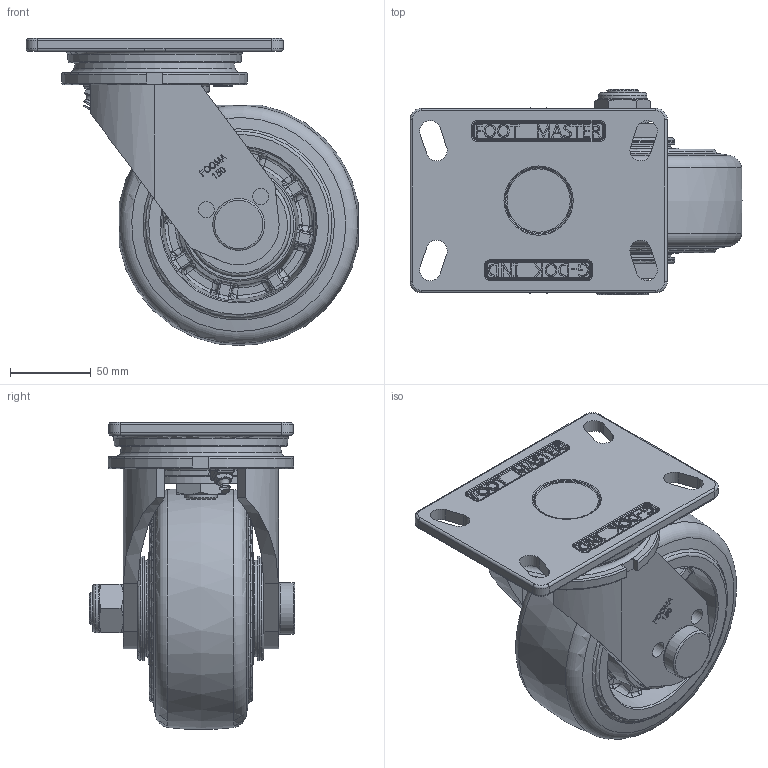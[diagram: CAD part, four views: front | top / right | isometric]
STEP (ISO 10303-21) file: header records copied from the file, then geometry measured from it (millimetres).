
FILE_DESCRIPTION(/* description */ (''),/* implementation_level */ '2;1');
FILE_NAME(/* name */ '\\192.168.10.38\지덕공유\1.기술연구소\손동원\GF-SERIES\3D\GF-150-ASF-MUD.stp',/* time_stamp */ '2023-07-25T14:02:31+09:00',/* author */ ('admin'),/* organization */ (''),/* preprocessor_version */ 'ST-DEVELOPER v18.1',/* originating_system */ 'Autodesk Inventor 2021',/* authorisation */ '');
FILE_SCHEMA (('AUTOMOTIVE_DESIGN { 1 0 10303 214 3 1 1 }'));
Products named in the file (1): GF-150-ASF-MUD
Bounding box: 205.25 x 127 x 189.84 mm (x, y, z)
Volume: 1466166.6 mm3; surface area: 185615.8 mm2
Topology: 1 solids, 1 shells, 1671 faces, 4433 edges, 2730 vertices
Faces by surface type: bspline 710, plane 505, cylinder 259, torus 130, cone 59, sphere 8
Full cylindrical faces by diameter (mm): 6 x1, 10 x4, 20 x4, 20.2 x2, 24.9 x2, 30 x1, 32 x1, 34 x2, 43 x2, 59 x1, 64.519 x2
Entity records: 86377 total; most frequent: CARTESIAN_POINT 49543, ORIENTED_EDGE 8730, DIRECTION 6030, EDGE_CURVE 4365, VERTEX_POINT 2737, AXIS2_PLACEMENT_3D 2131, EDGE_LOOP 1777, LINE 1768
